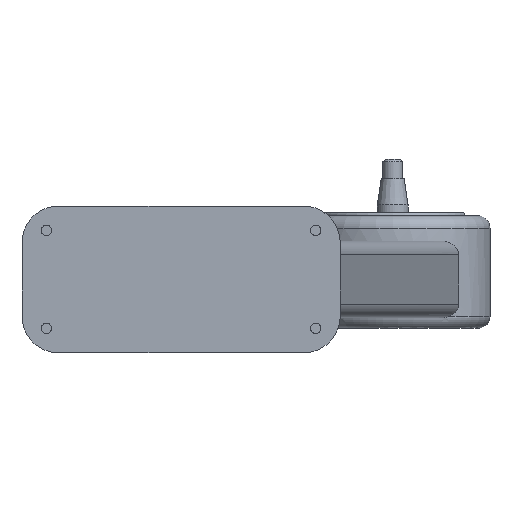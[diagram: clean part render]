
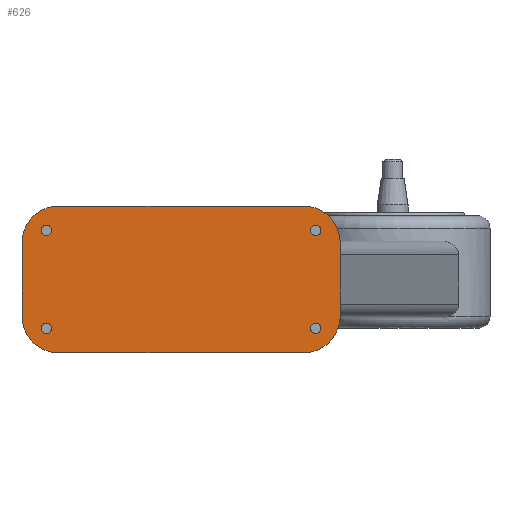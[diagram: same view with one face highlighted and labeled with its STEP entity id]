
A CAD part, front view. The second image highlights one B-rep face of the part: STEP entity #626.
In plain terms, the highlighted planar face has unit normal (0, -1, 0).
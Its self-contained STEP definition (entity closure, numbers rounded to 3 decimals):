
#1 = CIRCLE ( 'NONE', #760, 4.25 ) ;
#16 = VERTEX_POINT ( 'NONE', #1317 ) ;
#31 = CIRCLE ( 'NONE', #439, 4.25 ) ;
#33 = CIRCLE ( 'NONE', #452, 30. ) ;
#34 = CARTESIAN_POINT ( 'NONE',  ( 113.953, 0., 40. ) ) ;
#143 = EDGE_CURVE ( 'NONE', #1409, #1511, #33, .T. ) ;
#144 = DIRECTION ( 'NONE',  ( 0., -1., 0. ) ) ;
#173 = EDGE_LOOP ( 'NONE', ( #1297, #824, #363, #1273, #1732, #1263, #1674, #369 ) ) ;
#174 = EDGE_CURVE ( 'NONE', #820, #251, #1450, .T. ) ;
#177 = DIRECTION ( 'NONE',  ( 0., -1., 0. ) ) ;
#178 = AXIS2_PLACEMENT_3D ( 'NONE', #556, #1787, #731 ) ;
#179 = DIRECTION ( 'NONE',  ( 0., 0., -1. ) ) ;
#213 = CARTESIAN_POINT ( 'NONE',  ( -96.047, 0., -60. ) ) ;
#217 = CARTESIAN_POINT ( 'NONE',  ( -96.047, 0., 30. ) ) ;
#222 = AXIS2_PLACEMENT_3D ( 'NONE', #1734, #679, #1908 ) ;
#225 = EDGE_LOOP ( 'NONE', ( #389, #2195 ) ) ;
#232 = DIRECTION ( 'NONE',  ( 1., 0., 0. ) ) ;
#248 = EDGE_CURVE ( 'NONE', #1409, #551, #2221, .T. ) ;
#251 = VERTEX_POINT ( 'NONE', #703 ) ;
#254 = AXIS2_PLACEMENT_3D ( 'NONE', #374, #1073, #1322 ) ;
#276 = CARTESIAN_POINT ( 'NONE',  ( -96.047, 0., -30. ) ) ;
#294 = VERTEX_POINT ( 'NONE', #1592 ) ;
#295 = CIRCLE ( 'NONE', #691, 30. ) ;
#331 = FACE_BOUND ( 'NONE', #1979, .T. ) ;
#335 = DIRECTION ( 'NONE',  ( 0., -1., 0. ) ) ;
#339 = EDGE_CURVE ( 'NONE', #251, #820, #1583, .T. ) ;
#343 = ORIENTED_EDGE ( 'NONE', *, *, #2300, .F. ) ;
#362 = CIRCLE ( 'NONE', #1110, 30. ) ;
#363 = ORIENTED_EDGE ( 'NONE', *, *, #248, .F. ) ;
#369 = ORIENTED_EDGE ( 'NONE', *, *, #2103, .T. ) ;
#371 = ORIENTED_EDGE ( 'NONE', *, *, #422, .F. ) ;
#374 = CARTESIAN_POINT ( 'NONE',  ( -106.047, 0., -40. ) ) ;
#375 = AXIS2_PLACEMENT_3D ( 'NONE', #1383, #335, #1556 ) ;
#378 = CIRCLE ( 'NONE', #638, 30. ) ;
#388 = VERTEX_POINT ( 'NONE', #917 ) ;
#389 = ORIENTED_EDGE ( 'NONE', *, *, #775, .F. ) ;
#394 = DIRECTION ( 'NONE',  ( -1., 0., 0. ) ) ;
#407 = EDGE_CURVE ( 'NONE', #2059, #16, #1, .T. ) ;
#420 = CARTESIAN_POINT ( 'NONE',  ( 103.953, 0., -30. ) ) ;
#422 = EDGE_CURVE ( 'NONE', #294, #823, #1369, .T. ) ;
#438 = CARTESIAN_POINT ( 'NONE',  ( 103.953, 0., 60. ) ) ;
#439 = AXIS2_PLACEMENT_3D ( 'NONE', #1225, #177, #1404 ) ;
#451 = DIRECTION ( 'NONE',  ( -1., 0., 0. ) ) ;
#452 = AXIS2_PLACEMENT_3D ( 'NONE', #1198, #144, #1374 ) ;
#464 = CARTESIAN_POINT ( 'NONE',  ( -126.047, 0., -60. ) ) ;
#468 = DIRECTION ( 'NONE',  ( 0., 1., 0. ) ) ;
#470 = EDGE_CURVE ( 'NONE', #579, #551, #362, .T. ) ;
#510 = CARTESIAN_POINT ( 'NONE',  ( -110.297, 0., 40. ) ) ;
#534 = CARTESIAN_POINT ( 'NONE',  ( 118.203, 0., -40. ) ) ;
#551 = VERTEX_POINT ( 'NONE', #2200 ) ;
#556 = CARTESIAN_POINT ( 'NONE',  ( 113.953, 0., -40. ) ) ;
#579 = VERTEX_POINT ( 'NONE', #2028 ) ;
#592 = DIRECTION ( 'NONE',  ( -1., 0., 0. ) ) ;
#626 = ADVANCED_FACE ( 'NONE', ( #1780, #331, #1722, #2139, #1663 ), #1330, .F. ) ;
#638 = AXIS2_PLACEMENT_3D ( 'NONE', #276, #1496, #451 ) ;
#679 = DIRECTION ( 'NONE',  ( 0., -1., 0. ) ) ;
#691 = AXIS2_PLACEMENT_3D ( 'NONE', #217, #1442, #394 ) ;
#703 = CARTESIAN_POINT ( 'NONE',  ( 109.703, 0., -40. ) ) ;
#731 = DIRECTION ( 'NONE',  ( 1., 0., 0. ) ) ;
#749 = CARTESIAN_POINT ( 'NONE',  ( -106.047, 0., -40. ) ) ;
#760 = AXIS2_PLACEMENT_3D ( 'NONE', #749, #1975, #927 ) ;
#775 = EDGE_CURVE ( 'NONE', #1099, #2286, #31, .T. ) ;
#781 = VECTOR ( 'NONE', #1336, 1000. ) ;
#796 = CARTESIAN_POINT ( 'NONE',  ( -101.797, 0., 40. ) ) ;
#817 = VECTOR ( 'NONE', #179, 1000. ) ;
#820 = VERTEX_POINT ( 'NONE', #534 ) ;
#822 = CARTESIAN_POINT ( 'NONE',  ( -96.047, 0., 60. ) ) ;
#823 = VERTEX_POINT ( 'NONE', #2120 ) ;
#824 = ORIENTED_EDGE ( 'NONE', *, *, #470, .T. ) ;
#825 = CARTESIAN_POINT ( 'NONE',  ( -126.047, 0., -30. ) ) ;
#885 = VERTEX_POINT ( 'NONE', #213 ) ;
#908 = DIRECTION ( 'NONE',  ( 0., -1., 0. ) ) ;
#917 = CARTESIAN_POINT ( 'NONE',  ( -126.047, 0., 30. ) ) ;
#920 = CIRCLE ( 'NONE', #375, 4.25 ) ;
#922 = LINE ( 'NONE', #1057, #2275 ) ;
#927 = DIRECTION ( 'NONE',  ( 1., 0., 0. ) ) ;
#995 = AXIS2_PLACEMENT_3D ( 'NONE', #34, #1279, #232 ) ;
#1057 = CARTESIAN_POINT ( 'NONE',  ( -126.047, 0., 60. ) ) ;
#1073 = DIRECTION ( 'NONE',  ( 0., -1., 0. ) ) ;
#1074 = EDGE_LOOP ( 'NONE', ( #371, #2204 ) ) ;
#1099 = VERTEX_POINT ( 'NONE', #796 ) ;
#1110 = AXIS2_PLACEMENT_3D ( 'NONE', #420, #1644, #592 ) ;
#1198 = CARTESIAN_POINT ( 'NONE',  ( 103.953, 0., 30. ) ) ;
#1225 = CARTESIAN_POINT ( 'NONE',  ( -106.047, 0., 40. ) ) ;
#1263 = ORIENTED_EDGE ( 'NONE', *, *, #1893, .T. ) ;
#1273 = ORIENTED_EDGE ( 'NONE', *, *, #143, .T. ) ;
#1279 = DIRECTION ( 'NONE',  ( 0., -1., 0. ) ) ;
#1282 = EDGE_CURVE ( 'NONE', #823, #294, #1446, .T. ) ;
#1288 = ORIENTED_EDGE ( 'NONE', *, *, #339, .F. ) ;
#1293 = ORIENTED_EDGE ( 'NONE', *, *, #174, .F. ) ;
#1297 = ORIENTED_EDGE ( 'NONE', *, *, #1577, .T. ) ;
#1304 = AXIS2_PLACEMENT_3D ( 'NONE', #2214, #468, #1688 ) ;
#1306 = LINE ( 'NONE', #464, #781 ) ;
#1308 = CARTESIAN_POINT ( 'NONE',  ( -101.797, 0., -40. ) ) ;
#1317 = CARTESIAN_POINT ( 'NONE',  ( -110.297, 0., -40. ) ) ;
#1322 = DIRECTION ( 'NONE',  ( 1., 0., 0. ) ) ;
#1329 = CIRCLE ( 'NONE', #254, 4.25 ) ;
#1330 = PLANE ( 'NONE',  #1304 ) ;
#1336 = DIRECTION ( 'NONE',  ( 1., 0., 0. ) ) ;
#1369 = CIRCLE ( 'NONE', #995, 4.25 ) ;
#1374 = DIRECTION ( 'NONE',  ( -1., 0., 0. ) ) ;
#1383 = CARTESIAN_POINT ( 'NONE',  ( -106.047, 0., 40. ) ) ;
#1404 = DIRECTION ( 'NONE',  ( 1., 0., 0. ) ) ;
#1409 = VERTEX_POINT ( 'NONE', #1628 ) ;
#1415 = AXIS2_PLACEMENT_3D ( 'NONE', #1959, #908, #2138 ) ;
#1442 = DIRECTION ( 'NONE',  ( 0., -1., 0. ) ) ;
#1446 = CIRCLE ( 'NONE', #1415, 4.25 ) ;
#1450 = CIRCLE ( 'NONE', #222, 4.25 ) ;
#1496 = DIRECTION ( 'NONE',  ( 0., -1., 0. ) ) ;
#1511 = VERTEX_POINT ( 'NONE', #438 ) ;
#1535 = EDGE_LOOP ( 'NONE', ( #1726, #343 ) ) ;
#1556 = DIRECTION ( 'NONE',  ( 1., 0., 0. ) ) ;
#1577 = EDGE_CURVE ( 'NONE', #885, #579, #1306, .T. ) ;
#1583 = CIRCLE ( 'NONE', #178, 4.25 ) ;
#1592 = CARTESIAN_POINT ( 'NONE',  ( 118.203, 0., 40. ) ) ;
#1603 = VECTOR ( 'NONE', #1873, 1000. ) ;
#1628 = CARTESIAN_POINT ( 'NONE',  ( 133.953, 0., 30. ) ) ;
#1637 = EDGE_CURVE ( 'NONE', #388, #2226, #2133, .T. ) ;
#1644 = DIRECTION ( 'NONE',  ( 0., -1., 0. ) ) ;
#1663 = FACE_OUTER_BOUND ( 'NONE', #173, .T. ) ;
#1672 = VERTEX_POINT ( 'NONE', #822 ) ;
#1674 = ORIENTED_EDGE ( 'NONE', *, *, #1637, .T. ) ;
#1688 = DIRECTION ( 'NONE',  ( -1., 0., 0. ) ) ;
#1722 = FACE_BOUND ( 'NONE', #1074, .T. ) ;
#1726 = ORIENTED_EDGE ( 'NONE', *, *, #407, .F. ) ;
#1732 = ORIENTED_EDGE ( 'NONE', *, *, #1816, .F. ) ;
#1734 = CARTESIAN_POINT ( 'NONE',  ( 113.953, 0., -40. ) ) ;
#1780 = FACE_BOUND ( 'NONE', #1535, .T. ) ;
#1787 = DIRECTION ( 'NONE',  ( 0., -1., 0. ) ) ;
#1816 = EDGE_CURVE ( 'NONE', #1672, #1511, #922, .T. ) ;
#1873 = DIRECTION ( 'NONE',  ( 0., 0., -1. ) ) ;
#1893 = EDGE_CURVE ( 'NONE', #1672, #388, #295, .T. ) ;
#1908 = DIRECTION ( 'NONE',  ( 1., 0., 0. ) ) ;
#1940 = DIRECTION ( 'NONE',  ( 1., 0., 0. ) ) ;
#1959 = CARTESIAN_POINT ( 'NONE',  ( 113.953, 0., 40. ) ) ;
#1975 = DIRECTION ( 'NONE',  ( 0., -1., 0. ) ) ;
#1979 = EDGE_LOOP ( 'NONE', ( #1293, #1288 ) ) ;
#2028 = CARTESIAN_POINT ( 'NONE',  ( 103.953, 0., -60. ) ) ;
#2059 = VERTEX_POINT ( 'NONE', #1308 ) ;
#2103 = EDGE_CURVE ( 'NONE', #2226, #885, #378, .T. ) ;
#2120 = CARTESIAN_POINT ( 'NONE',  ( 109.703, 0., 40. ) ) ;
#2133 = LINE ( 'NONE', #2228, #1603 ) ;
#2138 = DIRECTION ( 'NONE',  ( 1., 0., 0. ) ) ;
#2139 = FACE_BOUND ( 'NONE', #225, .T. ) ;
#2195 = ORIENTED_EDGE ( 'NONE', *, *, #2276, .F. ) ;
#2200 = CARTESIAN_POINT ( 'NONE',  ( 133.953, 0., -30. ) ) ;
#2204 = ORIENTED_EDGE ( 'NONE', *, *, #1282, .F. ) ;
#2214 = CARTESIAN_POINT ( 'NONE',  ( -126.047, 0., 60. ) ) ;
#2221 = LINE ( 'NONE', #2288, #817 ) ;
#2226 = VERTEX_POINT ( 'NONE', #825 ) ;
#2228 = CARTESIAN_POINT ( 'NONE',  ( -126.047, 0., 60. ) ) ;
#2275 = VECTOR ( 'NONE', #1940, 1000. ) ;
#2276 = EDGE_CURVE ( 'NONE', #2286, #1099, #920, .T. ) ;
#2286 = VERTEX_POINT ( 'NONE', #510 ) ;
#2288 = CARTESIAN_POINT ( 'NONE',  ( 133.953, 0., 60. ) ) ;
#2300 = EDGE_CURVE ( 'NONE', #16, #2059, #1329, .T. ) ;
